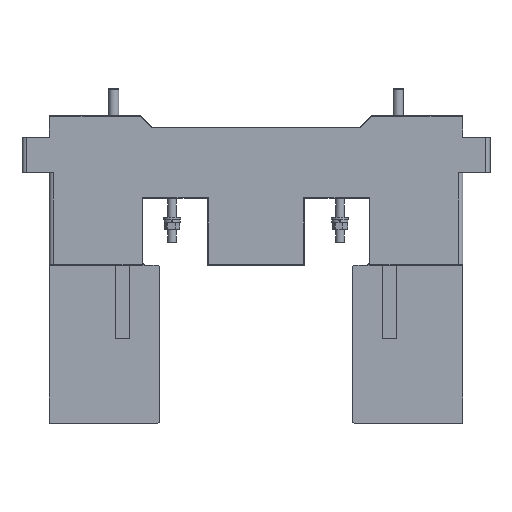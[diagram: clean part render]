
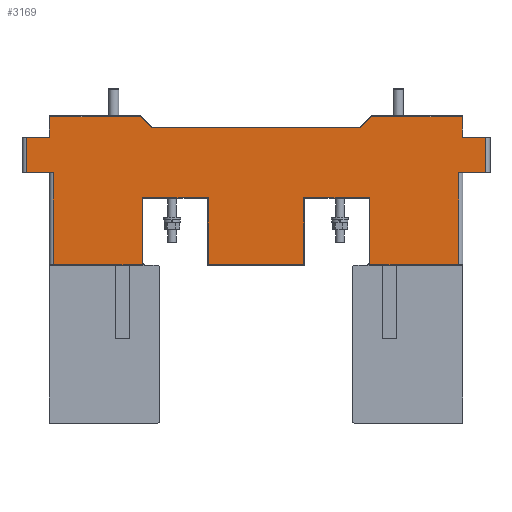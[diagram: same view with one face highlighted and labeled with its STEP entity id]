
A CAD part, front view. The second image highlights one B-rep face of the part: STEP entity #3169.
In plain terms, the highlighted planar face has unit normal (0, -1, 0).
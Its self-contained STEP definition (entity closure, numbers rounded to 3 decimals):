
#3169=ADVANCED_FACE('',(#8870),#6592,.T.);
#6592=PLANE('',#64075);
#8870=FACE_OUTER_BOUND('',#12031,.T.);
#12031=EDGE_LOOP('',(#21014,#21015,#21016,#21017,#21018,#21019,#21020,#21021,
#21022,#21023,#21024,#21025,#21026,#21027,#21028,#21029,#21030,#21031,#21032,
#21033,#21034,#21035,#21036,#21037,#21038,#21039));
#16010=CIRCLE('',#64073,1.);
#16011=CIRCLE('',#64074,1.);
#21014=ORIENTED_EDGE('',*,*,#44043,.F.);
#21015=ORIENTED_EDGE('',*,*,#44044,.T.);
#21016=ORIENTED_EDGE('',*,*,#44045,.T.);
#21017=ORIENTED_EDGE('',*,*,#44046,.T.);
#21018=ORIENTED_EDGE('',*,*,#44047,.T.);
#21019=ORIENTED_EDGE('',*,*,#44048,.T.);
#21020=ORIENTED_EDGE('',*,*,#44049,.T.);
#21021=ORIENTED_EDGE('',*,*,#44050,.T.);
#21022=ORIENTED_EDGE('',*,*,#43694,.T.);
#21023=ORIENTED_EDGE('',*,*,#44051,.T.);
#21024=ORIENTED_EDGE('',*,*,#44052,.F.);
#21025=ORIENTED_EDGE('',*,*,#44053,.T.);
#21026=ORIENTED_EDGE('',*,*,#44054,.T.);
#21027=ORIENTED_EDGE('',*,*,#44055,.T.);
#21028=ORIENTED_EDGE('',*,*,#44056,.F.);
#21029=ORIENTED_EDGE('',*,*,#44057,.T.);
#21030=ORIENTED_EDGE('',*,*,#44058,.T.);
#21031=ORIENTED_EDGE('',*,*,#44059,.T.);
#21032=ORIENTED_EDGE('',*,*,#44060,.T.);
#21033=ORIENTED_EDGE('',*,*,#44061,.T.);
#21034=ORIENTED_EDGE('',*,*,#44062,.F.);
#21035=ORIENTED_EDGE('',*,*,#44063,.T.);
#21036=ORIENTED_EDGE('',*,*,#44064,.T.);
#21037=ORIENTED_EDGE('',*,*,#44065,.T.);
#21038=ORIENTED_EDGE('',*,*,#44066,.T.);
#21039=ORIENTED_EDGE('',*,*,#44067,.T.);
#37462=VERTEX_POINT('',#91495);
#37463=VERTEX_POINT('',#91497);
#37758=VERTEX_POINT('',#92179);
#37759=VERTEX_POINT('',#92180);
#37760=VERTEX_POINT('',#92182);
#37761=VERTEX_POINT('',#92184);
#37762=VERTEX_POINT('',#92186);
#37763=VERTEX_POINT('',#92188);
#37764=VERTEX_POINT('',#92190);
#37765=VERTEX_POINT('',#92192);
#37766=VERTEX_POINT('',#92195);
#37767=VERTEX_POINT('',#92197);
#37768=VERTEX_POINT('',#92199);
#37769=VERTEX_POINT('',#92201);
#37770=VERTEX_POINT('',#92203);
#37771=VERTEX_POINT('',#92205);
#37772=VERTEX_POINT('',#92207);
#37773=VERTEX_POINT('',#92209);
#37774=VERTEX_POINT('',#92211);
#37775=VERTEX_POINT('',#92213);
#37776=VERTEX_POINT('',#92215);
#37777=VERTEX_POINT('',#92217);
#37778=VERTEX_POINT('',#92219);
#37779=VERTEX_POINT('',#92221);
#37780=VERTEX_POINT('',#92223);
#37781=VERTEX_POINT('',#92225);
#43694=EDGE_CURVE('',#37463,#37462,#52239,.T.);
#44043=EDGE_CURVE('',#37758,#37759,#52485,.T.);
#44044=EDGE_CURVE('',#37758,#37760,#52486,.T.);
#44045=EDGE_CURVE('',#37760,#37761,#52487,.T.);
#44046=EDGE_CURVE('',#37761,#37762,#52488,.T.);
#44047=EDGE_CURVE('',#37762,#37763,#52489,.T.);
#44048=EDGE_CURVE('',#37763,#37764,#52490,.T.);
#44049=EDGE_CURVE('',#37764,#37765,#52491,.T.);
#44050=EDGE_CURVE('',#37765,#37463,#52492,.T.);
#44051=EDGE_CURVE('',#37462,#37766,#52493,.T.);
#44052=EDGE_CURVE('',#37767,#37766,#52494,.T.);
#44053=EDGE_CURVE('',#37767,#37768,#52495,.T.);
#44054=EDGE_CURVE('',#37768,#37769,#52496,.T.);
#44055=EDGE_CURVE('',#37769,#37770,#52497,.T.);
#44056=EDGE_CURVE('',#37771,#37770,#16010,.T.);
#44057=EDGE_CURVE('',#37771,#37772,#52498,.T.);
#44058=EDGE_CURVE('',#37772,#37773,#52499,.T.);
#44059=EDGE_CURVE('',#37773,#37774,#52500,.T.);
#44060=EDGE_CURVE('',#37774,#37775,#52501,.T.);
#44061=EDGE_CURVE('',#37775,#37776,#52502,.T.);
#44062=EDGE_CURVE('',#37777,#37776,#16011,.T.);
#44063=EDGE_CURVE('',#37777,#37778,#52503,.T.);
#44064=EDGE_CURVE('',#37778,#37779,#52504,.T.);
#44065=EDGE_CURVE('',#37779,#37780,#52505,.T.);
#44066=EDGE_CURVE('',#37780,#37781,#52506,.T.);
#44067=EDGE_CURVE('',#37781,#37759,#52507,.T.);
#52239=LINE('',#91496,#58729);
#52485=LINE('',#92178,#58975);
#52486=LINE('',#92181,#58976);
#52487=LINE('',#92183,#58977);
#52488=LINE('',#92185,#58978);
#52489=LINE('',#92187,#58979);
#52490=LINE('',#92189,#58980);
#52491=LINE('',#92191,#58981);
#52492=LINE('',#92193,#58982);
#52493=LINE('',#92194,#58983);
#52494=LINE('',#92196,#58984);
#52495=LINE('',#92198,#58985);
#52496=LINE('',#92200,#58986);
#52497=LINE('',#92202,#58987);
#52498=LINE('',#92206,#58988);
#52499=LINE('',#92208,#58989);
#52500=LINE('',#92210,#58990);
#52501=LINE('',#92212,#58991);
#52502=LINE('',#92214,#58992);
#52503=LINE('',#92218,#58993);
#52504=LINE('',#92220,#58994);
#52505=LINE('',#92222,#58995);
#52506=LINE('',#92224,#58996);
#52507=LINE('',#92226,#58997);
#58729=VECTOR('',#72359,1.);
#58975=VECTOR('',#72887,1.);
#58976=VECTOR('',#72888,1.);
#58977=VECTOR('',#72889,1.);
#58978=VECTOR('',#72890,1.);
#58979=VECTOR('',#72891,1.);
#58980=VECTOR('',#72892,1.);
#58981=VECTOR('',#72893,1.);
#58982=VECTOR('',#72894,1.);
#58983=VECTOR('',#72895,1.);
#58984=VECTOR('',#72896,1.);
#58985=VECTOR('',#72897,1.);
#58986=VECTOR('',#72898,1.);
#58987=VECTOR('',#72899,1.);
#58988=VECTOR('',#72902,1.);
#58989=VECTOR('',#72903,1.);
#58990=VECTOR('',#72904,1.);
#58991=VECTOR('',#72905,1.);
#58992=VECTOR('',#72906,1.);
#58993=VECTOR('',#72909,1.);
#58994=VECTOR('',#72910,1.);
#58995=VECTOR('',#72911,1.);
#58996=VECTOR('',#72912,1.);
#58997=VECTOR('',#72913,1.);
#64073=AXIS2_PLACEMENT_3D('',#92204,#72900,#72901);
#64074=AXIS2_PLACEMENT_3D('',#92216,#72907,#72908);
#64075=AXIS2_PLACEMENT_3D('',#92227,#72914,#72915);
#72359=DIRECTION('',(-1.,0.,0.));
#72887=DIRECTION('',(1.,0.,0.));
#72888=DIRECTION('',(0.,0.,1.));
#72889=DIRECTION('',(-1.,0.,0.));
#72890=DIRECTION('',(-0.707,0.,-0.707));
#72891=DIRECTION('',(-1.,0.,0.));
#72892=DIRECTION('',(-0.707,0.,0.707));
#72893=DIRECTION('',(-1.,0.,0.));
#72894=DIRECTION('',(0.,0.,-1.));
#72895=DIRECTION('',(0.,0.,-1.));
#72896=DIRECTION('',(-1.,0.,0.));
#72897=DIRECTION('',(0.,0.,-1.));
#72898=DIRECTION('',(1.,0.,0.));
#72899=DIRECTION('',(0.,0.,1.));
#72900=DIRECTION('',(0.,-1.,0.));
#72901=DIRECTION('',(0.,0.,-1.));
#72902=DIRECTION('',(1.,0.,0.));
#72903=DIRECTION('',(0.,0.,-1.));
#72904=DIRECTION('',(1.,0.,0.));
#72905=DIRECTION('',(0.,0.,1.));
#72906=DIRECTION('',(1.,0.,0.));
#72907=DIRECTION('',(0.,-1.,0.));
#72908=DIRECTION('',(0.,0.,-1.));
#72909=DIRECTION('',(0.,0.,-1.));
#72910=DIRECTION('',(1.,0.,0.));
#72911=DIRECTION('',(0.,0.,1.));
#72912=DIRECTION('',(1.,0.,0.));
#72913=DIRECTION('',(0.,0.,1.));
#72914=DIRECTION('',(0.,-1.,0.));
#72915=DIRECTION('',(0.,0.,1.));
#91495=CARTESIAN_POINT('',(-16.,0.,90.));
#91496=CARTESIAN_POINT('',(-19.,0.,90.));
#91497=CARTESIAN_POINT('',(0.5,0.,90.));
#92178=CARTESIAN_POINT('',(310.,0.,90.));
#92179=CARTESIAN_POINT('',(290.5,0.,90.));
#92180=CARTESIAN_POINT('',(307.,0.,90.));
#92181=CARTESIAN_POINT('',(290.5,0.,0.));
#92182=CARTESIAN_POINT('',(290.5,0.,104.5));
#92183=CARTESIAN_POINT('',(145.5,0.,104.5));
#92184=CARTESIAN_POINT('',(226.707,0.,104.5));
#92185=CARTESIAN_POINT('',(218.854,0.,96.646));
#92186=CARTESIAN_POINT('',(218.707,0.,96.5));
#92187=CARTESIAN_POINT('',(72.5,0.,96.5));
#92188=CARTESIAN_POINT('',(72.293,0.,96.5));
#92189=CARTESIAN_POINT('',(64.146,0.,104.646));
#92190=CARTESIAN_POINT('',(64.293,0.,104.5));
#92191=CARTESIAN_POINT('',(145.5,0.,104.5));
#92192=CARTESIAN_POINT('',(0.5,0.,104.5));
#92193=CARTESIAN_POINT('',(0.5,0.,0.));
#92194=CARTESIAN_POINT('',(-16.,0.,0.));
#92195=CARTESIAN_POINT('',(-16.,0.,65.));
#92196=CARTESIAN_POINT('',(-19.,0.,65.));
#92197=CARTESIAN_POINT('',(3.,0.,65.));
#92198=CARTESIAN_POINT('',(3.,0.,0.));
#92199=CARTESIAN_POINT('',(3.,0.,0.5));
#92200=CARTESIAN_POINT('',(145.5,0.,0.5));
#92201=CARTESIAN_POINT('',(65.5,0.,0.5));
#92202=CARTESIAN_POINT('',(65.5,0.,47.));
#92203=CARTESIAN_POINT('',(65.5,0.,46.5));
#92204=CARTESIAN_POINT('',(66.5,0.,46.5));
#92205=CARTESIAN_POINT('',(66.5,0.,47.5));
#92206=CARTESIAN_POINT('',(111.5,0.,47.5));
#92207=CARTESIAN_POINT('',(112.,0.,47.5));
#92208=CARTESIAN_POINT('',(112.,0.,0.));
#92209=CARTESIAN_POINT('',(112.,0.,0.5));
#92210=CARTESIAN_POINT('',(179.5,0.,0.5));
#92211=CARTESIAN_POINT('',(179.,0.,0.5));
#92212=CARTESIAN_POINT('',(179.,0.,0.));
#92213=CARTESIAN_POINT('',(179.,0.,47.5));
#92214=CARTESIAN_POINT('',(225.,0.,47.5));
#92215=CARTESIAN_POINT('',(224.5,0.,47.5));
#92216=CARTESIAN_POINT('',(224.5,0.,46.5));
#92217=CARTESIAN_POINT('',(225.5,0.,46.5));
#92218=CARTESIAN_POINT('',(225.5,0.,0.));
#92219=CARTESIAN_POINT('',(225.5,0.,0.5));
#92220=CARTESIAN_POINT('',(145.5,0.,0.5));
#92221=CARTESIAN_POINT('',(288.,0.,0.5));
#92222=CARTESIAN_POINT('',(288.,0.,0.));
#92223=CARTESIAN_POINT('',(288.,0.,65.));
#92224=CARTESIAN_POINT('',(310.,0.,65.));
#92225=CARTESIAN_POINT('',(307.,0.,65.));
#92226=CARTESIAN_POINT('',(307.,0.,0.));
#92227=CARTESIAN_POINT('',(145.5,0.,0.));
